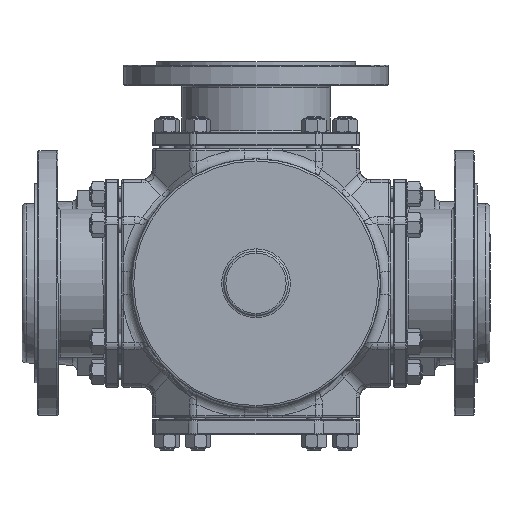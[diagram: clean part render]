
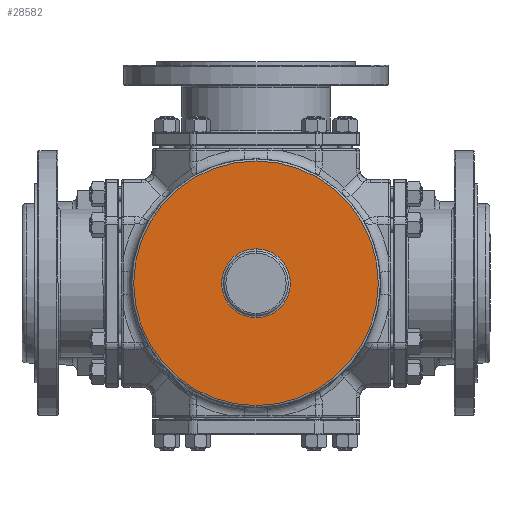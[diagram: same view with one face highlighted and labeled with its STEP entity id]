
A CAD part, front view. The second image highlights one B-rep face of the part: STEP entity #28582.
In plain terms, the highlighted planar face has unit normal (0, -1, 0).
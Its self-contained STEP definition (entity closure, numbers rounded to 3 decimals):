
#435 = ORIENTED_EDGE ( 'NONE', *, *, #45755, .T. ) ;
#681 = CIRCLE ( 'NONE', #8278, 115.5 ) ;
#768 = DIRECTION ( 'NONE',  ( 0., 0., 1. ) ) ;
#806 = VERTEX_POINT ( 'NONE', #31576 ) ;
#1913 = AXIS2_PLACEMENT_3D ( 'NONE', #7053, #32323, #29132 ) ;
#2512 = DIRECTION ( 'NONE',  ( 0., 0., 1. ) ) ;
#4957 = AXIS2_PLACEMENT_3D ( 'NONE', #34048, #22808, #768 ) ;
#4975 = CARTESIAN_POINT ( 'NONE',  ( 0., -106., 0. ) ) ;
#5281 = EDGE_LOOP ( 'NONE', ( #23968, #15101 ) ) ;
#6815 = VERTEX_POINT ( 'NONE', #42196 ) ;
#7053 = CARTESIAN_POINT ( 'NONE',  ( 0., -106., 0. ) ) ;
#8278 = AXIS2_PLACEMENT_3D ( 'NONE', #44492, #22496, #37268 ) ;
#8989 = DIRECTION ( 'NONE',  ( 0., 1., 0. ) ) ;
#9021 = VERTEX_POINT ( 'NONE', #46222 ) ;
#14047 = EDGE_CURVE ( 'NONE', #27316, #806, #23406, .T. ) ;
#15101 = ORIENTED_EDGE ( 'NONE', *, *, #37966, .T. ) ;
#16753 = AXIS2_PLACEMENT_3D ( 'NONE', #24573, #38730, #2512 ) ;
#17829 = ORIENTED_EDGE ( 'NONE', *, *, #22633, .T. ) ;
#19840 = CIRCLE ( 'NONE', #4957, 32.5 ) ;
#21342 = FACE_BOUND ( 'NONE', #29381, .T. ) ;
#22496 = DIRECTION ( 'NONE',  ( 0., -1., 0. ) ) ;
#22633 = EDGE_CURVE ( 'NONE', #9021, #6815, #33144, .T. ) ;
#22808 = DIRECTION ( 'NONE',  ( 0., 1., 0. ) ) ;
#23406 = CIRCLE ( 'NONE', #1913, 115.5 ) ;
#23814 = DIRECTION ( 'NONE',  ( 0., 0., 1. ) ) ;
#23968 = ORIENTED_EDGE ( 'NONE', *, *, #14047, .T. ) ;
#24573 = CARTESIAN_POINT ( 'NONE',  ( 0., -106., 0. ) ) ;
#27316 = VERTEX_POINT ( 'NONE', #43109 ) ;
#27652 = FACE_OUTER_BOUND ( 'NONE', #5281, .T. ) ;
#28026 = AXIS2_PLACEMENT_3D ( 'NONE', #4975, #8989, #23814 ) ;
#28582 = ADVANCED_FACE ( 'NONE', ( #21342, #27652 ), #41497, .F. ) ;
#29132 = DIRECTION ( 'NONE',  ( 0., 0., 1. ) ) ;
#29381 = EDGE_LOOP ( 'NONE', ( #17829, #435 ) ) ;
#31576 = CARTESIAN_POINT ( 'NONE',  ( 0., -106., -115.5 ) ) ;
#32323 = DIRECTION ( 'NONE',  ( 0., -1., 0. ) ) ;
#33144 = CIRCLE ( 'NONE', #16753, 32.5 ) ;
#34048 = CARTESIAN_POINT ( 'NONE',  ( 0., -106., 0. ) ) ;
#37268 = DIRECTION ( 'NONE',  ( 0., 0., 1. ) ) ;
#37966 = EDGE_CURVE ( 'NONE', #806, #27316, #681, .T. ) ;
#38730 = DIRECTION ( 'NONE',  ( 0., 1., 0. ) ) ;
#41497 = PLANE ( 'NONE',  #28026 ) ;
#42196 = CARTESIAN_POINT ( 'NONE',  ( 0., -106., -32.5 ) ) ;
#43109 = CARTESIAN_POINT ( 'NONE',  ( 0., -106., 115.5 ) ) ;
#44492 = CARTESIAN_POINT ( 'NONE',  ( 0., -106., 0. ) ) ;
#45755 = EDGE_CURVE ( 'NONE', #6815, #9021, #19840, .T. ) ;
#46222 = CARTESIAN_POINT ( 'NONE',  ( 0., -106., 32.5 ) ) ;
